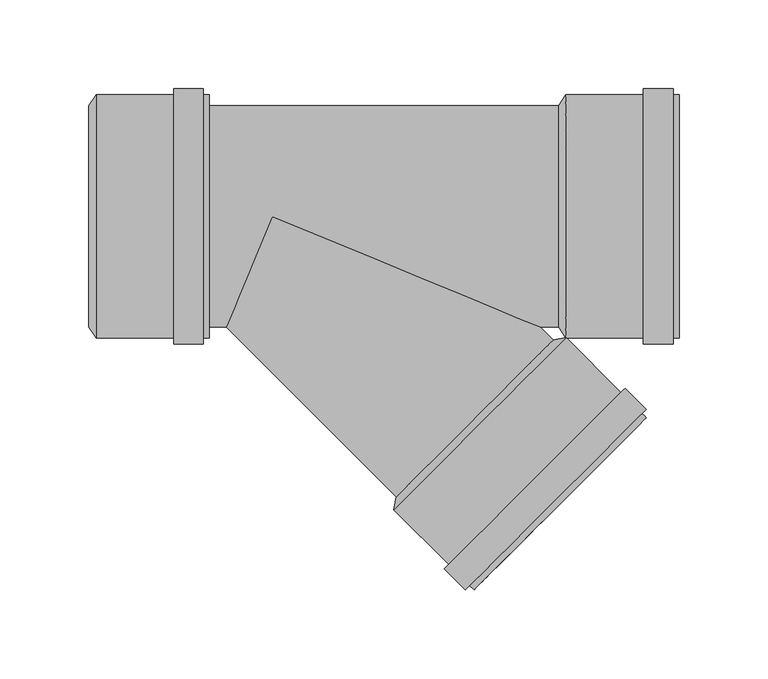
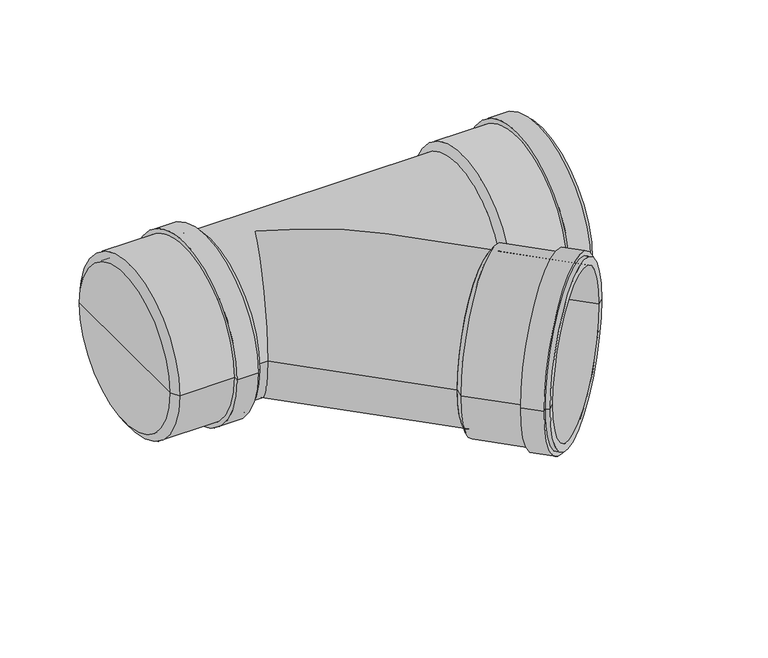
"""IFC4 building model written with IfcOpenShell, lengths in millimetres: pipe fitting geometry, pf_KGEA : pf_KGEA."""

from ifc_helpers import new_model, si_unit, frame, origin, place, context, project, spatial, polyline, circle_curve, ellipse_curve, source, transform, mapped, element, save
from ifc_brep_helpers import plane_surface, cylinder_surface, revolved_surface, advanced_brep


def pipe_fitting_24f530bc(model_context):
    return source(origin(), model_context, "Body", "AdvancedBrep", [
        advanced_brep(
        [(69.7914393, -158.179787, 0.0), (158.179787, -69.7914393, 0.0), (165.3922761, -68.3772257, 0.0), (68.3772257, -165.3922761, 0.0), (113.9856131, -113.9856131, 0.0), (113.5613491, -210.5763994, 0.0), (210.5763994, -113.5613491, 0.0), (206.2630481, -117.8747004, 0.0), (117.8747004, -206.2630481, 0.0), (111.157186, -208.1722364, 0.0), (208.1722364, -111.157186, 0.0), (108.7530229, -210.5763994, 0.0), (210.5763994, -108.7530229, 0.0), (96.873629, -198.6970055, 0.0), (198.6970055, -96.873629, 0.0), (99.2777921, -196.2928425, 0.0), (196.2928425, -99.2777921, 0.0), (72.6905771, -161.0789248, 0.0), (161.0789248, -72.6905771, 0.0), (116.8847509, -116.8847509, 0.0)],
        [
            (0, 1, circle_curve(frame((113.9856131, -113.9856131, 0.0), z_axis=(0.7071067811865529, -0.7071067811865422, 0.0), x_axis=(0.7071067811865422, 0.7071067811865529, 0.0)), 62.5)),
            (1, 2),
            (2, 3, circle_curve(frame((116.8847509, -116.8847509, 0.0), z_axis=(-0.7071067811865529, 0.7071067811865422, 0.0), x_axis=(0.7071067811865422, 0.7071067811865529, 0.0)), 68.6)),
            (3, 0),
            (1, 0, circle_curve(frame((113.9856131, -113.9856131, 0.0), z_axis=(0.7071067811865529, -0.7071067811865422, 0.0), x_axis=(0.7071067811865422, 0.7071067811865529, 0.0)), 62.5)),
            (3, 2, circle_curve(frame((116.8847509, -116.8847509, 0.0), z_axis=(-0.7071067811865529, 0.7071067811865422, 0.0), x_axis=(0.7071067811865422, 0.7071067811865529, 0.0)), 68.6)),
            (4, 1),
            (0, 4),
            (5, 6, circle_curve(frame((162.0688742, -162.0688742, 0.0), z_axis=(0.7071067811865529, -0.7071067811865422, 0.0), x_axis=(0.7071067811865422, 0.7071067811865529, 0.0)), 68.6)),
            (6, 7),
            (7, 8, circle_curve(frame((162.0688742, -162.0688742, 0.0), z_axis=(-0.7071067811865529, 0.7071067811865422, 0.0), x_axis=(0.7071067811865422, 0.7071067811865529, 0.0)), 62.5)),
            (8, 5),
            (6, 5, circle_curve(frame((162.0688742, -162.0688742, 0.0), z_axis=(0.7071067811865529, -0.7071067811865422, 0.0), x_axis=(0.7071067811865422, 0.7071067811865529, 0.0)), 68.6)),
            (8, 7, circle_curve(frame((162.0688742, -162.0688742, 0.0), z_axis=(-0.7071067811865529, 0.7071067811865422, 0.0), x_axis=(0.7071067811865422, 0.7071067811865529, 0.0)), 62.5)),
            (9, 10, circle_curve(frame((159.6647112, -159.6647112, 0.0), z_axis=(0.7071067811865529, -0.7071067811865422, 0.0), x_axis=(0.7071067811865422, 0.7071067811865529, 0.0)), 68.6)),
            (10, 6),
            (5, 9),
            (10, 9, circle_curve(frame((159.6647112, -159.6647112, 0.0), z_axis=(0.7071067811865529, -0.7071067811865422, 0.0), x_axis=(0.7071067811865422, 0.7071067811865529, 0.0)), 68.6)),
            (11, 12, circle_curve(frame((159.6647112, -159.6647112, 0.0), z_axis=(0.7071067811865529, -0.7071067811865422, 0.0), x_axis=(0.7071067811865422, 0.7071067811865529, 0.0)), 72.0)),
            (12, 10),
            (9, 11),
            (12, 11, circle_curve(frame((159.6647112, -159.6647112, 0.0), z_axis=(0.7071067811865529, -0.7071067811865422, 0.0), x_axis=(0.7071067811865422, 0.7071067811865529, 0.0)), 72.0)),
            (13, 14, circle_curve(frame((147.7853173, -147.7853173, 0.0), z_axis=(0.7071067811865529, -0.7071067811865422, 0.0), x_axis=(0.7071067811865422, 0.7071067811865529, 0.0)), 72.0)),
            (14, 12),
            (11, 13),
            (14, 13, circle_curve(frame((147.7853173, -147.7853173, 0.0), z_axis=(0.7071067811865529, -0.7071067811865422, 0.0), x_axis=(0.7071067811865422, 0.7071067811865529, 0.0)), 72.0)),
            (15, 16, circle_curve(frame((147.7853173, -147.7853173, 0.0), z_axis=(0.7071067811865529, -0.7071067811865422, 0.0), x_axis=(0.7071067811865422, 0.7071067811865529, 0.0)), 68.6)),
            (16, 14),
            (13, 15),
            (16, 15, circle_curve(frame((147.7853173, -147.7853173, 0.0), z_axis=(0.7071067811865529, -0.7071067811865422, 0.0), x_axis=(0.7071067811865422, 0.7071067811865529, 0.0)), 68.6)),
            (2, 16),
            (15, 3),
            (17, 18, circle_curve(frame((116.8847509, -116.8847509, 0.0), z_axis=(0.7071067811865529, -0.7071067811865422, 0.0), x_axis=(0.7071067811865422, 0.7071067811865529, 0.0)), 62.5)),
            (18, 19),
            (19, 17),
            (18, 17, circle_curve(frame((116.8847509, -116.8847509, 0.0), z_axis=(0.7071067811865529, -0.7071067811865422, 0.0), x_axis=(0.7071067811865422, 0.7071067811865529, 0.0)), 62.5)),
            (7, 18),
            (17, 8),
        ],
        [
            revolved_surface(polyline([(165.3922761, -68.3772257, 0.0), (158.179787, -69.7914393, 0.0)]), (113.9856131, -113.9856131, 0.0), (-0.7071067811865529, 0.7071067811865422, 0.0)),
            plane_surface(frame((113.9856131, -113.9856131, 0.0), z_axis=(-0.7071067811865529, 0.7071067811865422, 0.0), x_axis=(0.7071067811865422, 0.7071067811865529, 0.0))),
            plane_surface(frame((162.0688742, -162.0688742, 0.0), z_axis=(0.7071067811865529, -0.7071067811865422, 0.0), x_axis=(0.7071067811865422, 0.7071067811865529, 0.0))),
            cylinder_surface(frame((113.9856131, -113.9856131, 0.0), z_axis=(-0.7071067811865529, 0.7071067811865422, 0.0), x_axis=(0.7071067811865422, 0.7071067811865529, 0.0)), 68.6),
            plane_surface(frame((159.6647112, -159.6647112, 0.0), z_axis=(0.7071067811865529, -0.7071067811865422, 0.0), x_axis=(0.7071067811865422, 0.7071067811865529, 0.0))),
            cylinder_surface(frame((113.9856131, -113.9856131, 0.0), z_axis=(-0.7071067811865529, 0.7071067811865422, 0.0), x_axis=(0.7071067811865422, 0.7071067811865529, 0.0)), 72.0),
            plane_surface(frame((147.7853173, -147.7853173, 0.0), z_axis=(-0.7071067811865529, 0.7071067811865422, 0.0), x_axis=(0.7071067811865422, 0.7071067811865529, 0.0))),
            plane_surface(frame((116.8847509, -116.8847509, 0.0), z_axis=(0.7071067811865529, -0.7071067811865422, 0.0), x_axis=(0.7071067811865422, 0.7071067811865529, 0.0))),
            revolved_surface(polyline([(161.07892472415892, -72.69057707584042, 0.0), (206.2630480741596, -117.87470042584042, 0.0)]), (113.9856131, -113.9856131, 0.0), (-0.7071067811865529, 0.7071067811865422, 0.0)),
        ],
        [
            (0, [[1, 2, 3, 4]]),
            (0, [[5, -4, 6, -2]]),
            (1, [[7, -1, 8]]),
            (1, [[-8, -5, -7]]),
            (2, [[9, 10, 11, 12]]),
            (2, [[13, -12, 14, -10]]),
            (3, [[15, 16, -9, 17]]),
            (3, [[18, -17, -13, -16]]),
            (4, [[19, 20, -15, 21]]),
            (4, [[22, -21, -18, -20]]),
            (5, [[23, 24, -19, 25]]),
            (5, [[26, -25, -22, -24]]),
            (6, [[27, 28, -23, 29]]),
            (6, [[30, -29, -26, -28]]),
            (3, [[-3, 31, -27, 32]]),
            (3, [[-6, -32, -30, -31]]),
            (7, [[33, 34, 35]]),
            (7, [[36, -35, -34]]),
            (8, [[-11, 37, -33, 38]]),
            (8, [[-14, -38, -36, -37]]),
        ],
    ),
        advanced_brep(
        [(161.2, -62.5, 0.0), (161.2, 62.5, 0.0), (165.3, 68.6, 0.0), (165.3, -68.6, 0.0), (161.2, 0.0, 0.0), (229.2, -68.6, 0.0), (229.2, 68.6, 0.0), (229.2, 62.5, 0.0), (229.2, -62.5, 0.0), (225.8, -68.6, 0.0), (225.8, 68.6, 0.0), (225.8, -72.0, 0.0), (225.8, 72.0, 0.0), (209.0, -72.0, 0.0), (209.0, 72.0, 0.0), (209.0, -68.6, 0.0), (209.0, 68.6, 0.0), (165.3, -62.5, 0.0), (165.3, 62.5, 0.0), (165.3, 0.0, 0.0)],
        [
            (0, 1, circle_curve(frame((161.2, 0.0, 0.0), z_axis=(1.0, 0.0, 0.0), x_axis=(0.0, 1.0, 0.0)), 62.5)),
            (1, 2),
            (2, 3, circle_curve(frame((165.3, 0.0, 0.0), z_axis=(-1.0, 0.0, 0.0), x_axis=(0.0, 1.0, 0.0)), 68.6)),
            (3, 0),
            (1, 0, circle_curve(frame((161.2, 0.0, 0.0), z_axis=(1.0, 0.0, 0.0), x_axis=(0.0, 1.0, 0.0)), 62.5)),
            (3, 2, circle_curve(frame((165.3, 0.0, 0.0), z_axis=(-1.0, 0.0, 0.0), x_axis=(0.0, 1.0, 0.0)), 68.6)),
            (4, 1),
            (0, 4),
            (5, 6, circle_curve(frame((229.2, 0.0, 0.0), z_axis=(1.0, 0.0, 0.0), x_axis=(0.0, 1.0, 0.0)), 68.6)),
            (6, 7),
            (7, 8, circle_curve(frame((229.2, 0.0, 0.0), z_axis=(-1.0, 0.0, 0.0), x_axis=(0.0, 1.0, 0.0)), 62.5)),
            (8, 5),
            (6, 5, circle_curve(frame((229.2, 0.0, 0.0), z_axis=(1.0, 0.0, 0.0), x_axis=(0.0, 1.0, 0.0)), 68.6)),
            (8, 7, circle_curve(frame((229.2, 0.0, 0.0), z_axis=(-1.0, 0.0, 0.0), x_axis=(0.0, 1.0, 0.0)), 62.5)),
            (9, 10, circle_curve(frame((225.8, 0.0, 0.0), z_axis=(1.0, 0.0, 0.0), x_axis=(0.0, 1.0, 0.0)), 68.6)),
            (10, 6),
            (5, 9),
            (10, 9, circle_curve(frame((225.8, 0.0, 0.0), z_axis=(1.0, 0.0, 0.0), x_axis=(0.0, 1.0, 0.0)), 68.6)),
            (11, 12, circle_curve(frame((225.8, 0.0, 0.0), z_axis=(1.0, 0.0, 0.0), x_axis=(0.0, 1.0, 0.0)), 72.0)),
            (12, 10),
            (9, 11),
            (12, 11, circle_curve(frame((225.8, 0.0, 0.0), z_axis=(1.0, 0.0, 0.0), x_axis=(0.0, 1.0, 0.0)), 72.0)),
            (13, 14, circle_curve(frame((209.0, 0.0, 0.0), z_axis=(1.0, 0.0, 0.0), x_axis=(0.0, 1.0, 0.0)), 72.0)),
            (14, 12),
            (11, 13),
            (14, 13, circle_curve(frame((209.0, 0.0, 0.0), z_axis=(1.0, 0.0, 0.0), x_axis=(0.0, 1.0, 0.0)), 72.0)),
            (15, 16, circle_curve(frame((209.0, 0.0, 0.0), z_axis=(1.0, 0.0, 0.0), x_axis=(0.0, 1.0, 0.0)), 68.6)),
            (16, 14),
            (13, 15),
            (16, 15, circle_curve(frame((209.0, 0.0, 0.0), z_axis=(1.0, 0.0, 0.0), x_axis=(0.0, 1.0, 0.0)), 68.6)),
            (2, 16),
            (15, 3),
            (17, 18, circle_curve(frame((165.3, 0.0, 0.0), z_axis=(1.0, 0.0, 0.0), x_axis=(0.0, 1.0, 0.0)), 62.5)),
            (18, 19),
            (19, 17),
            (18, 17, circle_curve(frame((165.3, 0.0, 0.0), z_axis=(1.0, 0.0, 0.0), x_axis=(0.0, 1.0, 0.0)), 62.5)),
            (7, 18),
            (17, 8),
        ],
        [
            revolved_surface(polyline([(165.3, 68.6, 0.0), (161.2, 62.5, 0.0)]), (161.2, 0.0, 0.0), (-1.0, 0.0, 0.0)),
            plane_surface(frame((161.2, 0.0, 0.0), z_axis=(-1.0, 0.0, 0.0), x_axis=(0.0, 1.0, 0.0))),
            plane_surface(frame((229.2, 0.0, 0.0), z_axis=(1.0, 0.0, 0.0), x_axis=(0.0, 1.0, 0.0))),
            cylinder_surface(frame((161.2, 0.0, 0.0), z_axis=(-1.0, 0.0, 0.0), x_axis=(0.0, 1.0, 0.0)), 68.6),
            plane_surface(frame((225.8, 0.0, 0.0), z_axis=(1.0, 0.0, 0.0), x_axis=(0.0, 1.0, 0.0))),
            cylinder_surface(frame((161.2, 0.0, 0.0), z_axis=(-1.0, 0.0, 0.0), x_axis=(0.0, 1.0, 0.0)), 72.0),
            plane_surface(frame((209.0, 0.0, 0.0), z_axis=(-1.0, 0.0, 0.0), x_axis=(0.0, 1.0, 0.0))),
            plane_surface(frame((165.3, 0.0, 0.0), z_axis=(1.0, 0.0, 0.0), x_axis=(0.0, 1.0, 0.0))),
            revolved_surface(polyline([(165.3, 62.5, 0.0), (229.2, 62.5, 0.0)]), (161.2, 0.0, 0.0), (-1.0, 0.0, 0.0)),
        ],
        [
            (0, [[1, 2, 3, 4]]),
            (0, [[5, -4, 6, -2]]),
            (1, [[7, -1, 8]]),
            (1, [[-8, -5, -7]]),
            (2, [[9, 10, 11, 12]]),
            (2, [[13, -12, 14, -10]]),
            (3, [[15, 16, -9, 17]]),
            (3, [[18, -17, -13, -16]]),
            (4, [[19, 20, -15, 21]]),
            (4, [[22, -21, -18, -20]]),
            (5, [[23, 24, -19, 25]]),
            (5, [[26, -25, -22, -24]]),
            (6, [[27, 28, -23, 29]]),
            (6, [[30, -29, -26, -28]]),
            (3, [[-3, 31, -27, 32]]),
            (3, [[-6, -32, -30, -31]]),
            (7, [[33, 34, 35]]),
            (7, [[36, -35, -34]]),
            (8, [[-11, 37, -33, 38]]),
            (8, [[-14, -38, -36, -37]]),
        ],
    ),
        advanced_brep(
        [(-103.5, -62.5, 0.0), (-103.5, 62.5, 0.0), (-99.4, 68.6, 0.0), (-99.4, -68.6, 0.0), (-103.5, 0.0, 0.0), (-35.5, -68.6, 0.0), (-35.5, 68.6, 0.0), (-35.5, 62.5, 0.0), (-35.5, -62.5, 0.0), (-38.9, -68.6, 0.0), (-38.9, 68.6, 0.0), (-38.9, -72.0, 0.0), (-38.9, 72.0, 0.0), (-55.7, -72.0, 0.0), (-55.7, 72.0, 0.0), (-55.7, -68.6, 0.0), (-55.7, 68.6, 0.0), (-99.4, -62.5, 0.0), (-99.4, 62.5, 0.0), (-99.4, 0.0, 0.0)],
        [
            (0, 1, circle_curve(frame((-103.5, 0.0, 0.0), z_axis=(1.0, 0.0, 0.0), x_axis=(0.0, 1.0, 0.0)), 62.5)),
            (1, 2),
            (2, 3, circle_curve(frame((-99.4, 0.0, 0.0), z_axis=(-1.0, 0.0, 0.0), x_axis=(0.0, 1.0, 0.0)), 68.6)),
            (3, 0),
            (1, 0, circle_curve(frame((-103.5, 0.0, 0.0), z_axis=(1.0, 0.0, 0.0), x_axis=(0.0, 1.0, 0.0)), 62.5)),
            (3, 2, circle_curve(frame((-99.4, 0.0, 0.0), z_axis=(-1.0, 0.0, 0.0), x_axis=(0.0, 1.0, 0.0)), 68.6)),
            (4, 1),
            (0, 4),
            (5, 6, circle_curve(frame((-35.5, 0.0, 0.0), z_axis=(1.0, 0.0, 0.0), x_axis=(0.0, 1.0, 0.0)), 68.6)),
            (6, 7),
            (7, 8, circle_curve(frame((-35.5, 0.0, 0.0), z_axis=(-1.0, 0.0, 0.0), x_axis=(0.0, 1.0, 0.0)), 62.5)),
            (8, 5),
            (6, 5, circle_curve(frame((-35.5, 0.0, 0.0), z_axis=(1.0, 0.0, 0.0), x_axis=(0.0, 1.0, 0.0)), 68.6)),
            (8, 7, circle_curve(frame((-35.5, 0.0, 0.0), z_axis=(-1.0, 0.0, 0.0), x_axis=(0.0, 1.0, 0.0)), 62.5)),
            (9, 10, circle_curve(frame((-38.9, 0.0, 0.0), z_axis=(1.0, 0.0, 0.0), x_axis=(0.0, 1.0, 0.0)), 68.6)),
            (10, 6),
            (5, 9),
            (10, 9, circle_curve(frame((-38.9, 0.0, 0.0), z_axis=(1.0, 0.0, 0.0), x_axis=(0.0, 1.0, 0.0)), 68.6)),
            (11, 12, circle_curve(frame((-38.9, 0.0, 0.0), z_axis=(1.0, 0.0, 0.0), x_axis=(0.0, 1.0, 0.0)), 72.0)),
            (12, 10),
            (9, 11),
            (12, 11, circle_curve(frame((-38.9, 0.0, 0.0), z_axis=(1.0, 0.0, 0.0), x_axis=(0.0, 1.0, 0.0)), 72.0)),
            (13, 14, circle_curve(frame((-55.7, 0.0, 0.0), z_axis=(1.0, 0.0, 0.0), x_axis=(0.0, 1.0, 0.0)), 72.0)),
            (14, 12),
            (11, 13),
            (14, 13, circle_curve(frame((-55.7, 0.0, 0.0), z_axis=(1.0, 0.0, 0.0), x_axis=(0.0, 1.0, 0.0)), 72.0)),
            (15, 16, circle_curve(frame((-55.7, 0.0, 0.0), z_axis=(1.0, 0.0, 0.0), x_axis=(0.0, 1.0, 0.0)), 68.6)),
            (16, 14),
            (13, 15),
            (16, 15, circle_curve(frame((-55.7, 0.0, 0.0), z_axis=(1.0, 0.0, 0.0), x_axis=(0.0, 1.0, 0.0)), 68.6)),
            (2, 16),
            (15, 3),
            (17, 18, circle_curve(frame((-99.4, 0.0, 0.0), z_axis=(1.0, 0.0, 0.0), x_axis=(0.0, 1.0, 0.0)), 62.5)),
            (18, 19),
            (19, 17),
            (18, 17, circle_curve(frame((-99.4, 0.0, 0.0), z_axis=(1.0, 0.0, 0.0), x_axis=(0.0, 1.0, 0.0)), 62.5)),
            (7, 18),
            (17, 8),
        ],
        [
            revolved_surface(polyline([(-99.4, 68.6, 0.0), (-103.5, 62.5, 0.0)]), (-103.5, 0.0, 0.0), (-1.0, 0.0, 0.0)),
            plane_surface(frame((-103.5, 0.0, 0.0), z_axis=(-1.0, 0.0, 0.0), x_axis=(0.0, 1.0, 0.0))),
            plane_surface(frame((-35.5, 0.0, 0.0), z_axis=(1.0, 0.0, 0.0), x_axis=(0.0, 1.0, 0.0))),
            cylinder_surface(frame((-103.5, 0.0, 0.0), z_axis=(-1.0, 0.0, 0.0), x_axis=(0.0, 1.0, 0.0)), 68.6),
            plane_surface(frame((-38.9, 0.0, 0.0), z_axis=(1.0, 0.0, 0.0), x_axis=(0.0, 1.0, 0.0))),
            cylinder_surface(frame((-103.5, 0.0, 0.0), z_axis=(-1.0, 0.0, 0.0), x_axis=(0.0, 1.0, 0.0)), 72.0),
            plane_surface(frame((-55.7, 0.0, 0.0), z_axis=(-1.0, 0.0, 0.0), x_axis=(0.0, 1.0, 0.0))),
            plane_surface(frame((-99.4, 0.0, 0.0), z_axis=(1.0, 0.0, 0.0), x_axis=(0.0, 1.0, 0.0))),
            revolved_surface(polyline([(-99.4, 62.5, 0.0), (-35.5, 62.5, 0.0)]), (-103.5, 0.0, 0.0), (-1.0, 0.0, 0.0)),
        ],
        [
            (0, [[1, 2, 3, 4]]),
            (0, [[5, -4, 6, -2]]),
            (1, [[7, -1, 8]]),
            (1, [[-8, -5, -7]]),
            (2, [[9, 10, 11, 12]]),
            (2, [[13, -12, 14, -10]]),
            (3, [[15, 16, -9, 17]]),
            (3, [[18, -17, -13, -16]]),
            (4, [[19, 20, -15, 21]]),
            (4, [[22, -21, -18, -20]]),
            (5, [[23, 24, -19, 25]]),
            (5, [[26, -25, -22, -24]]),
            (6, [[27, 28, -23, 29]]),
            (6, [[30, -29, -26, -28]]),
            (3, [[-3, 31, -27, 32]]),
            (3, [[-6, -32, -30, -31]]),
            (7, [[33, 34, 35]]),
            (7, [[36, -35, -34]]),
            (8, [[-11, 37, -33, 38]]),
            (8, [[-14, -38, -36, -37]]),
        ],
    ),
        advanced_brep(
        [(-99.4, -62.5, 0.0), (-99.4, 62.5, 0.0), (161.2, -62.5, 0.0), (161.2, 62.5, 0.0), (-25.8883476, -62.5, 0.0), (0.0, 0.0, 62.5), (150.8883476, -62.5, 0.0), (0.0, 0.0, -62.5), (69.7914393, -158.179787, 0.0), (158.179787, -69.7914393, 0.0)],
        [
            (0, 1, circle_curve(frame((-99.4, 0.0, 0.0), z_axis=(-1.0, 0.0, 0.0), x_axis=(0.0, 1.0, 0.0)), 62.5)),
            (1, 0, circle_curve(frame((-99.4, 0.0, 0.0), z_axis=(-1.0, 0.0, 0.0), x_axis=(0.0, 1.0, 0.0)), 62.5)),
            (2, 3, circle_curve(frame((161.2, 0.0, 0.0), z_axis=(1.0, 0.0, 0.0), x_axis=(0.0, 1.0, 0.0)), 62.5)),
            (3, 2, circle_curve(frame((161.2, 0.0, 0.0), z_axis=(1.0, 0.0, 0.0), x_axis=(0.0, 1.0, 0.0)), 62.5)),
            (0, 4),
            (4, 5, ellipse_curve(frame((0.0, 0.0, 0.0), z_axis=(-0.923879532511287, 0.38268343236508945, 0.0), x_axis=(-0.38268343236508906, -0.9238795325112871, 0.0)), 67.6495125, 62.5)),
            (5, 6, ellipse_curve(frame((0.0, 0.0, 0.0), z_axis=(0.3826834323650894, 0.9238795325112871, 0.0), x_axis=(-0.923879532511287, 0.38268343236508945, 0.0)), 163.3203706, 62.5)),
            (6, 2),
            (3, 1),
            (6, 7, ellipse_curve(frame((0.0, 0.0, 0.0), z_axis=(0.3826834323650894, 0.9238795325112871, 0.0), x_axis=(-0.923879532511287, 0.38268343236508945, 0.0)), 163.3203706, 62.5)),
            (7, 4, ellipse_curve(frame((0.0, 0.0, 0.0), z_axis=(-0.923879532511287, 0.38268343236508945, 0.0), x_axis=(-0.38268343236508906, -0.9238795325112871, 0.0)), 67.6495125, 62.5)),
            (8, 9, circle_curve(frame((113.9856131, -113.9856131, 0.0), z_axis=(0.7071067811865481, -0.707106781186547, 0.0), x_axis=(0.707106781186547, 0.7071067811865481, 0.0)), 62.5)),
            (9, 8, circle_curve(frame((113.9856131, -113.9856131, 0.0), z_axis=(0.7071067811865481, -0.707106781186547, 0.0), x_axis=(0.707106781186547, 0.7071067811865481, 0.0)), 62.5)),
            (9, 6),
            (4, 8),
        ],
        [
            plane_surface(frame((-99.4, 0.0, 0.0), z_axis=(-1.0, 0.0, 0.0), x_axis=(0.0, 0.0, 1.0))),
            plane_surface(frame((161.2, 0.0, 0.0), z_axis=(1.0, 0.0, 0.0), x_axis=(0.0, 0.0, 1.0))),
            cylinder_surface(frame((-99.4, 0.0, 0.0), z_axis=(-1.0, 0.0, 0.0), x_axis=(0.0, 1.0, 0.0)), 62.5),
            plane_surface(frame((113.9856131, -113.9856131, 0.0), z_axis=(0.7071067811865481, -0.707106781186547, 0.0), x_axis=(0.0, 0.0, 1.0))),
            cylinder_surface(frame((0.0, 0.0, 0.0), z_axis=(-0.7071067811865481, 0.707106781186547, 0.0), x_axis=(0.707106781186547, 0.7071067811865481, 0.0)), 62.5),
        ],
        [
            (0, [[1, 2]]),
            (1, [[3, 4]]),
            (2, [[-1, 5, 6, 7, 8, -4, 9]]),
            (2, [[-2, -9, -3, -8, 10, 11, -5]]),
            (3, [[12, 13]]),
            (4, [[-13, 14, -7, -6, 15]]),
            (4, [[-12, -15, -11, -10, -14]]),
        ],
    ),
    ])


if __name__ == "__main__":
    model = new_model("IFC4")
    model_context = context("Model", 3, world=origin())
    ifc_project = project(units=[si_unit("LENGTHUNIT", "METRE", prefix="MILLI")], contexts=[model_context])
    site = spatial("IfcSite", under=ifc_project)
    building = spatial("IfcBuilding", under=site)
    placement = place(None, origin())
    pipe_fitting_shape = pipe_fitting_24f530bc(model_context)
    element("IfcPipeFitting", 1, ObjectType="pf_KGEA : pf_KGEA", at=placement, inside=building, context=model_context, shape_type="MappedRepresentation", body=[
        mapped(pipe_fitting_shape, transform((0.0, 0.0, 0.0), x_axis=(1.0, 0.0, 0.0), y_axis=(0.0, 1.0, 0.0), z_axis=(0.0, 0.0, 1.0))),
    ])
    save(model, "model.ifc")
